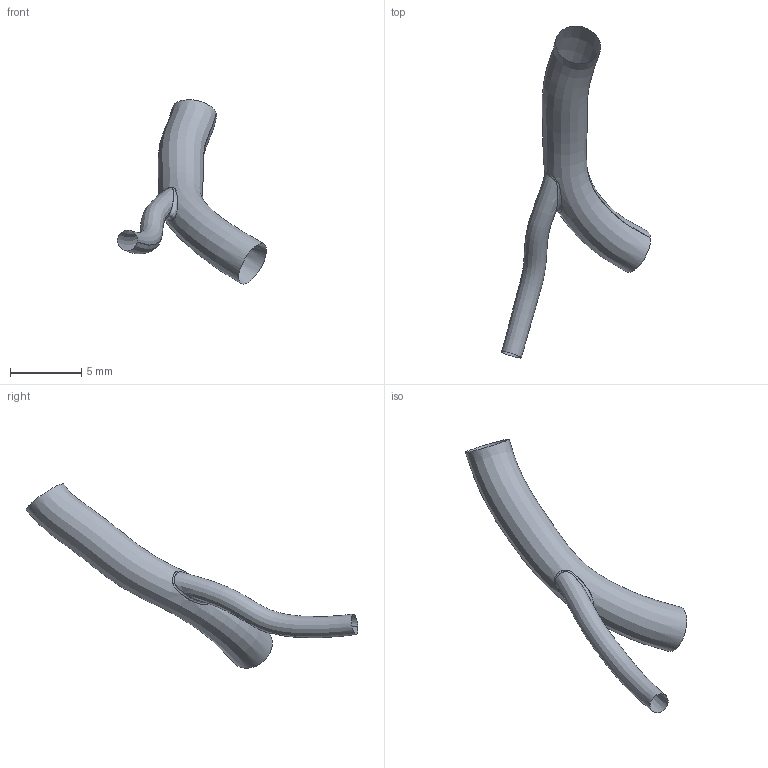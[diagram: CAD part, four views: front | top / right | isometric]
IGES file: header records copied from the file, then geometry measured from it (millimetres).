
Global section: file name: C:\Documents and Settings\Administrator\Desktop\FDA-Pig\Domestic LCA\Pig_000010\diag.es.igs; native system: Rhinoceros ( May 19 2006 ); preprocessor: Trout Lake IGES 012 May 19 2006; date: 111205.183724; units: centimetre
Bounding box: 10.49 x 23.36 x 12.98 mm (x, y, z)
Surface area: 255.6 mm2 (no closed solid volume)
Topology: 0 solids, 0 shells, 3 faces, 46 edges, 43 vertices
Faces by surface type: bspline 3
